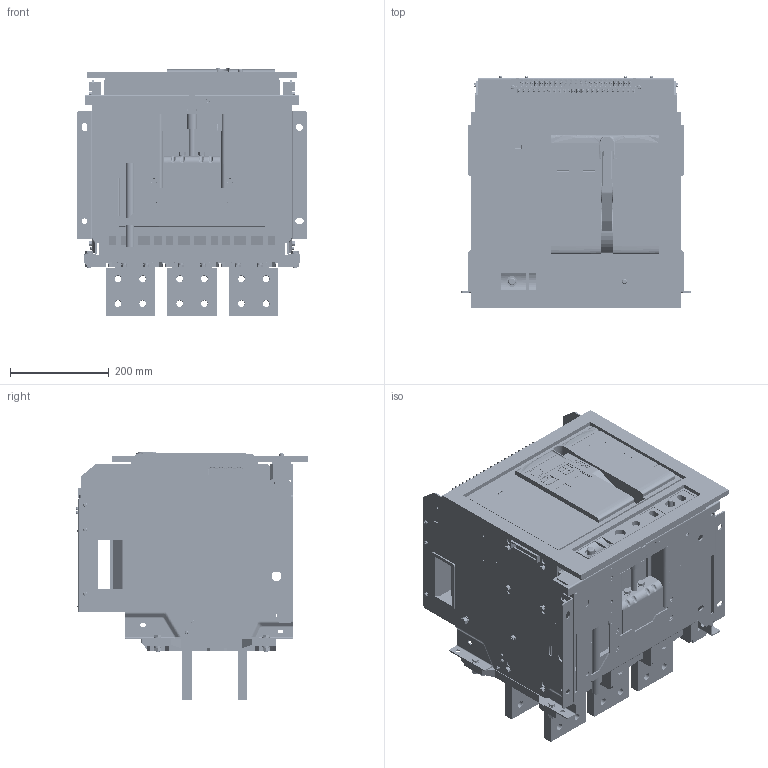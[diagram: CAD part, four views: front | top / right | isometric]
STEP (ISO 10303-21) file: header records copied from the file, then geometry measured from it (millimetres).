
FILE_DESCRIPTION (( 'STEP AP214' ), '1' );
FILE_NAME ('TENGEN_TGW1N-3200_3p_2000-2500A_D.STEP', '2026-06-02T08:41:51', ( '' ), ( '' ), 'SwSTEP 2.0', 'SolidWorks 2024', '' );
FILE_SCHEMA (( 'AUTOMOTIVE_DESIGN' ));
Length unit declared in the file: millimetre
Products named in the file (53): MANIFOLD_SOLID_BREP_1365_1_1_1.stp; GB_T9074_4-M6X80_4_1.stp; MANIFOLD_SOLID_BREP_1372_1_1_1.stp; 8TZD_156_6064.stp; MANIFOLD_SOLID_BREP_1350_1_1_1.stp; 8TZD_087_6008.stp; MANIFOLD_SOLID_BREP_1367_1_1_1.stp; MANIFOLD_SOLID_BREP_1355_1_1_1.stp; MANIFOLD_SOLID_BREP_1352_1_1_1.stp; 8TZD_253_1324_1_1.stp; MANIFOLD_SOLID_BREP_1357_1_1_1.stp; 3200A3P-CTSP_ASM_1_ASM_1_ASM_1_ASM.stp; 8TZD_005_6110_1_1.stp; MANIFOLD_SOLID_BREP_1364_1_1_1.stp; 8TZD_282_1272_AF0_1_1.stp; TENGEN_Рамка_3200-6300_Drawer; MANIFOLD_SOLID_BREP_1370_1_1_1.stp; MANIFOLD_SOLID_BREP_1368_1_1_1.stp; TENGEN_Рамка_3200-6300_Drawer.stp; MANIFOLD_SOLID_BREP_1353_1_1_1.stp; 8TZD_253_1325_1_1.stp; MANIFOLD_SOLID_BREP_1354_1_1_1.stp; MANIFOLD_SOLID_BREP_1360_1_1_1.stp; 8TZD_235_1114_1_1.stp; MANIFOLD_SOLID_BREP_1363_1_1_1.stp; 8TZD_860_6288_1_1.stp; 3200ZHAOKE_ASM_2_ASM_1_ASM.stp; MANIFOLD_SOLID_BREP_1356_1_1_1.stp; MANIFOLD_SOLID_BREP_1371_1_1_1.stp; MANIFOLD_SOLID_BREP_1375_1_1_1.stp; BREP_WITH_VOIDS_30_1_1_1.stp; MANIFOLD_SOLID_BREP_1349_1_1_1.stp; 8TZD_321_1011_1_1.stp; MANIFOLD_SOLID_BREP_1373_1_1_1.stp; 111111111_2_1.stp; BOJ3B645A41J65N_ASM_1_ASM_1_ASM_ASM.stp; 5TZD_005_6016_ASM_1_ASM_1_ASM.stp; MANIFOLD_SOLID_BREP_1376_1_1_1.stp; MANIFOLD_SOLID_BREP_1359_1_1_1.stp; MANIFOLD_SOLID_BREP_1361_1_1_1.stp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
Assembly tree (55 placements, depth 6):
  TENGEN_TGW1N-3200_3p_2000-2500A_D
    3200A3P-CTSP_ASM_1_ASM.stp
      3200A3P-CTSP_ASM_ASM_1_ASM_1_ASM.stp
        3200A3P-CTSP_ASM_1_ASM_1_ASM_1_ASM.stp
          BOJ3B645A41J65N_ASM_1_ASM_1_ASM_ASM.stp
            BREP_WITH_VOIDS_30_1_1_1.stp
            MANIFOLD_SOLID_BREP_1349_1_1_1.stp
            MANIFOLD_SOLID_BREP_1350_1_1_1.stp
            MANIFOLD_SOLID_BREP_1351_1_1_1.stp
            MANIFOLD_SOLID_BREP_1352_1_1_1.stp
            MANIFOLD_SOLID_BREP_1353_1_1_1.stp
            MANIFOLD_SOLID_BREP_1354_1_1_1.stp
            MANIFOLD_SOLID_BREP_1355_1_1_1.stp
            MANIFOLD_SOLID_BREP_1356_1_1_1.stp
            MANIFOLD_SOLID_BREP_1357_1_1_1.stp
            MANIFOLD_SOLID_BREP_1358_1_1_1.stp
            MANIFOLD_SOLID_BREP_1359_1_1_1.stp
            MANIFOLD_SOLID_BREP_1360_1_1_1.stp
            MANIFOLD_SOLID_BREP_1361_1_1_1.stp
            MANIFOLD_SOLID_BREP_1362_1_1_1.stp
            MANIFOLD_SOLID_BREP_1363_1_1_1.stp
            MANIFOLD_SOLID_BREP_1364_1_1_1.stp
            MANIFOLD_SOLID_BREP_1365_1_1_1.stp
            MANIFOLD_SOLID_BREP_1367_1_1_1.stp
            MANIFOLD_SOLID_BREP_1368_1_1_1.stp
            MANIFOLD_SOLID_BREP_1369_1_1_1.stp
            MANIFOLD_SOLID_BREP_1370_1_1_1.stp
            MANIFOLD_SOLID_BREP_1371_1_1_1.stp
            MANIFOLD_SOLID_BREP_1372_1_1_1.stp
            MANIFOLD_SOLID_BREP_1373_1_1_1.stp
            MANIFOLD_SOLID_BREP_1374_1_1_1.stp
            MANIFOLD_SOLID_BREP_1375_1_1_1.stp
            MANIFOLD_SOLID_BREP_1376_1_1_1.stp
      3200ZHAOKE_ASM_ASM_1_ASM.stp
        3200ZHAOKE_ASM_2_ASM_1_ASM.stp
          5TZD_005_6016_ASM_1_ASM_1_ASM.stp
            8TZD_005_6110_1_1.stp
            8TZD_253_1322_1_1.stp
            8TZD_282_1272_AF0_1_1.stp
            8TZD_235_1114_1_1.stp
            8TZD_321_1011_1_1.stp
            8TZD_282_1271_AF0_1_1.stp
            8TZD_282_1271_AF1_1_1.stp
            8TZD_253_1324_1_1.stp
            8TZD_253_1325_1_1.stp
            8TZD_860_6288_1_1.stp
          111111111_2_1.stp
          2000SB_1_1.stp
      GB_T9074_4-M6X80_4_1.stp  x4
    TENGEN_Рамка_3200-6300_Drawer
      TENGEN_Рамка_3200-6300_Drawer.stp
        8TZD_087_6008.stp
        8TZD_156_6064.stp
Bounding box: 466 x 469.5 x 502.2 mm (x, y, z)
Volume: 31616368.4 mm3; surface area: 4123970.2 mm2
Topology: 42 solids, 52 shells, 9954 faces, 26803 edges, 17128 vertices
Faces by surface type: plane 7195, cylinder 2036, bspline 285, torus 215, cone 145, sphere 78
Entity records: 380938 total; most frequent: CARTESIAN_POINT 134766, ORIENTED_EDGE 52560, DIRECTION 48249, EDGE_CURVE 26282, LINE 18737, VECTOR 18737, VERTEX_POINT 16960, AXIS2_PLACEMENT_3D 14756
